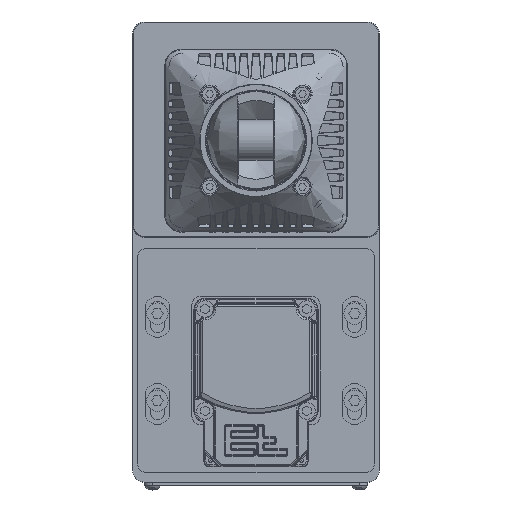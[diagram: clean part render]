
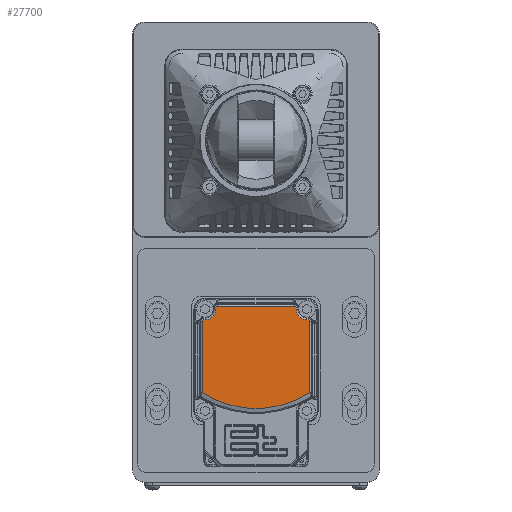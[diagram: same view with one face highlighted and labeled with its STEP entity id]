
A CAD part, top view. The second image highlights one B-rep face of the part: STEP entity #27700.
In plain terms, the highlighted planar face has unit normal (0, 0, 1).
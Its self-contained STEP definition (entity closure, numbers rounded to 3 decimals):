
#201 = VECTOR ( 'NONE', #52223, 1000. ) ;
#2622 = DIRECTION ( 'NONE',  ( -1., 0., 0. ) ) ;
#2992 = CARTESIAN_POINT ( 'NONE',  ( 301.579, 86.368, 448.429 ) ) ;
#5480 = EDGE_CURVE ( 'NONE', #206455, #174592, #165783, .T. ) ;
#8891 = CIRCLE ( 'NONE', #85681, 6.483 ) ;
#14646 = VECTOR ( 'NONE', #136075, 1000. ) ;
#15056 = LINE ( 'NONE', #218779, #201 ) ;
#16021 = CARTESIAN_POINT ( 'NONE',  ( 278.079, 87.786, 448.429 ) ) ;
#19732 = CARTESIAN_POINT ( 'NONE',  ( 325.097, 87.786, 448.429 ) ) ;
#20915 = CARTESIAN_POINT ( 'NONE',  ( 325.682, 87.786, 448.429 ) ) ;
#21641 = CARTESIAN_POINT ( 'NONE',  ( 334.296, 78.569, 448.429 ) ) ;
#22073 = LINE ( 'NONE', #96471, #14646 ) ;
#22967 = EDGE_CURVE ( 'NONE', #236410, #104081, #211931, .T. ) ;
#27348 = ORIENTED_EDGE ( 'NONE', *, *, #182219, .T. ) ;
#27700 = ADVANCED_FACE ( 'NONE', ( #94369 ), #227254, .T. ) ;
#29178 =( BOUNDED_CURVE ( )  B_SPLINE_CURVE ( 3, ( #143730, #72879, #234736, #92020 ),
 .UNSPECIFIED., .F., .T. ) 
 B_SPLINE_CURVE_WITH_KNOTS ( ( 4, 4 ),
 ( 2.356, 3.927 ),
 .UNSPECIFIED. ) 
 CURVE ( )  GEOMETRIC_REPRESENTATION_ITEM ( )  RATIONAL_B_SPLINE_CURVE ( ( 1., 0.805, 0.805, 1. ) ) 
 REPRESENTATION_ITEM ( '' )  );
#29205 = CARTESIAN_POINT ( 'NONE',  ( 326.096, 86.786, 448.429 ) ) ;
#31947 = EDGE_CURVE ( 'NONE', #181340, #138709, #145180, .T. ) ;
#33485 = EDGE_CURVE ( 'NONE', #56088, #179089, #22073, .T. ) ;
#33517 = VECTOR ( 'NONE', #196643, 1000. ) ;
#33576 = CARTESIAN_POINT ( 'NONE',  ( 268.862, 35.763, 448.429 ) ) ;
#34656 = CARTESIAN_POINT ( 'NONE',  ( 278.062, 87.786, 448.429 ) ) ;
#37825 = CARTESIAN_POINT ( 'NONE',  ( 268.862, 78.586, 448.429 ) ) ;
#38574 = LINE ( 'NONE', #55439, #87482 ) ;
#38927 = DIRECTION ( 'NONE',  ( 0., 1., 0. ) ) ;
#38971 = DIRECTION ( 'NONE',  ( 0., 1., 0. ) ) ;
#44007 = CARTESIAN_POINT ( 'NONE',  ( 333.882, 79.586, 448.429 ) ) ;
#46684 = CARTESIAN_POINT ( 'NONE',  ( 332.579, 79.586, 448.429 ) ) ;
#49746 = CARTESIAN_POINT ( 'NONE',  ( 264.079, 92.568, 448.429 ) ) ;
#51833 = EDGE_CURVE ( 'NONE', #174592, #111014, #38574, .T. ) ;
#52223 = DIRECTION ( 'NONE',  ( 0., -1., 0. ) ) ;
#52776 = CIRCLE ( 'NONE', #156309, 6.483 ) ;
#55439 = CARTESIAN_POINT ( 'NONE',  ( 332.579, 79.586, 448.429 ) ) ;
#55778 = CARTESIAN_POINT ( 'NONE',  ( 326.096, 87.372, 448.429 ) ) ;
#56088 = VERTEX_POINT ( 'NONE', #100653 ) ;
#59624 = ORIENTED_EDGE ( 'NONE', *, *, #51833, .T. ) ;
#62091 = CARTESIAN_POINT ( 'NONE',  ( 334.296, 78.586, 448.429 ) ) ;
#67015 = ORIENTED_EDGE ( 'NONE', *, *, #210472, .T. ) ;
#67749 = LINE ( 'NONE', #16021, #132078 ) ;
#68524 = ORIENTED_EDGE ( 'NONE', *, *, #158401, .T. ) ;
#71259 =( BOUNDED_CURVE ( )  B_SPLINE_CURVE ( 3, ( #220101, #205614, #77461, #37825 ),
 .UNSPECIFIED., .F., .T. ) 
 B_SPLINE_CURVE_WITH_KNOTS ( ( 4, 4 ),
 ( 2.356, 3.927 ),
 .UNSPECIFIED. ) 
 CURVE ( )  GEOMETRIC_REPRESENTATION_ITEM ( )  RATIONAL_B_SPLINE_CURVE ( ( 1., 0.805, 0.805, 1. ) ) 
 REPRESENTATION_ITEM ( '' )  );
#71805 = EDGE_LOOP ( 'NONE', ( #178328, #131484, #67015, #203861, #145864, #59624, #151395, #199741, #188170, #227507, #68524, #27348, #182491, #140341 ) ) ;
#72879 = CARTESIAN_POINT ( 'NONE',  ( 277.476, 87.786, 448.429 ) ) ;
#74337 = CARTESIAN_POINT ( 'NONE',  ( 269.862, 79.586, 448.429 ) ) ;
#77461 = CARTESIAN_POINT ( 'NONE',  ( 268.862, 79.172, 448.429 ) ) ;
#83894 = AXIS2_PLACEMENT_3D ( 'NONE', #2992, #186432, #38971 ) ;
#84608 = DIRECTION ( 'NONE',  ( 0., 0., 1. ) ) ;
#85681 = AXIS2_PLACEMENT_3D ( 'NONE', #126658, #181679, #38927 ) ;
#87482 = VECTOR ( 'NONE', #2622, 1000. ) ;
#88564 = VERTEX_POINT ( 'NONE', #194153 ) ;
#91537 = CIRCLE ( 'NONE', #83894, 60.8 ) ;
#92020 = CARTESIAN_POINT ( 'NONE',  ( 277.062, 86.786, 448.429 ) ) ;
#94369 = FACE_OUTER_BOUND ( 'NONE', #71805, .T. ) ;
#95000 = VECTOR ( 'NONE', #122318, 1000. ) ;
#96060 = CARTESIAN_POINT ( 'NONE',  ( 277.062, 86.068, 448.429 ) ) ;
#96471 = CARTESIAN_POINT ( 'NONE',  ( 269.879, 79.586, 448.429 ) ) ;
#100653 = CARTESIAN_POINT ( 'NONE',  ( 270.579, 79.586, 448.429 ) ) ;
#102481 = CARTESIAN_POINT ( 'NONE',  ( 325.097, 87.786, 448.429 ) ) ;
#102995 = EDGE_CURVE ( 'NONE', #135148, #236410, #177351, .T. ) ;
#103136 = CARTESIAN_POINT ( 'NONE',  ( 326.096, 86.769, 448.429 ) ) ;
#104081 = VERTEX_POINT ( 'NONE', #102481 ) ;
#111014 = VERTEX_POINT ( 'NONE', #46684 ) ;
#117264 = CARTESIAN_POINT ( 'NONE',  ( 333.297, 79.586, 448.429 ) ) ;
#118345 = CARTESIAN_POINT ( 'NONE',  ( 277.062, 86.786, 448.429 ) ) ;
#122318 = DIRECTION ( 'NONE',  ( 0., 1., 0. ) ) ;
#124054 = EDGE_CURVE ( 'NONE', #128284, #56088, #52776, .T. ) ;
#126658 = CARTESIAN_POINT ( 'NONE',  ( 332.579, 86.068, 448.429 ) ) ;
#127254 = DIRECTION ( 'NONE',  ( 0., 0., -1. ) ) ;
#128284 = VERTEX_POINT ( 'NONE', #96060 ) ;
#128519 = EDGE_CURVE ( 'NONE', #111014, #135148, #8891, .T. ) ;
#131484 = ORIENTED_EDGE ( 'NONE', *, *, #31947, .T. ) ;
#132078 = VECTOR ( 'NONE', #230711, 1000. ) ;
#132109 = LINE ( 'NONE', #21641, #199640 ) ;
#134571 = VERTEX_POINT ( 'NONE', #34656 ) ;
#134927 = CARTESIAN_POINT ( 'NONE',  ( 326.096, 86.068, 448.429 ) ) ;
#135148 = VERTEX_POINT ( 'NONE', #134927 ) ;
#135222 = CARTESIAN_POINT ( 'NONE',  ( 334.296, 79.172, 448.429 ) ) ;
#136075 = DIRECTION ( 'NONE',  ( -1., 0., 0. ) ) ;
#138671 = DIRECTION ( 'NONE',  ( 0., 1., 0. ) ) ;
#138709 = VERTEX_POINT ( 'NONE', #162688 ) ;
#140341 = ORIENTED_EDGE ( 'NONE', *, *, #33485, .T. ) ;
#142088 = CARTESIAN_POINT ( 'NONE',  ( 268.862, 78.586, 448.429 ) ) ;
#143730 = CARTESIAN_POINT ( 'NONE',  ( 278.062, 87.786, 448.429 ) ) ;
#145180 = LINE ( 'NONE', #33576, #33517 ) ;
#145864 = ORIENTED_EDGE ( 'NONE', *, *, #5480, .T. ) ;
#149465 = AXIS2_PLACEMENT_3D ( 'NONE', #49746, #84608, #138671 ) ;
#151395 = ORIENTED_EDGE ( 'NONE', *, *, #128519, .T. ) ;
#156309 = AXIS2_PLACEMENT_3D ( 'NONE', #199086, #127254, #203776 ) ;
#158401 = EDGE_CURVE ( 'NONE', #134571, #163702, #29178, .T. ) ;
#162688 = CARTESIAN_POINT ( 'NONE',  ( 268.862, 35.122, 448.429 ) ) ;
#163702 = VERTEX_POINT ( 'NONE', #118345 ) ;
#165783 =( BOUNDED_CURVE ( )  B_SPLINE_CURVE ( 3, ( #62091, #135222, #44007, #117264 ),
 .UNSPECIFIED., .F., .T. ) 
 B_SPLINE_CURVE_WITH_KNOTS ( ( 4, 4 ),
 ( 2.356, 3.927 ),
 .UNSPECIFIED. ) 
 CURVE ( )  GEOMETRIC_REPRESENTATION_ITEM ( )  RATIONAL_B_SPLINE_CURVE ( ( 1., 0.805, 0.805, 1. ) ) 
 REPRESENTATION_ITEM ( '' )  );
#174592 = VERTEX_POINT ( 'NONE', #191216 ) ;
#177351 = LINE ( 'NONE', #103136, #95000 ) ;
#178328 = ORIENTED_EDGE ( 'NONE', *, *, #226716, .T. ) ;
#179089 = VERTEX_POINT ( 'NONE', #74337 ) ;
#181340 = VERTEX_POINT ( 'NONE', #142088 ) ;
#181679 = DIRECTION ( 'NONE',  ( 0., 0., -1. ) ) ;
#182219 = EDGE_CURVE ( 'NONE', #163702, #128284, #15056, .T. ) ;
#182491 = ORIENTED_EDGE ( 'NONE', *, *, #124054, .T. ) ;
#183966 = CARTESIAN_POINT ( 'NONE',  ( 326.096, 86.786, 448.429 ) ) ;
#186432 = DIRECTION ( 'NONE',  ( 0., 0., 1. ) ) ;
#188170 = ORIENTED_EDGE ( 'NONE', *, *, #22967, .T. ) ;
#191216 = CARTESIAN_POINT ( 'NONE',  ( 333.297, 79.586, 448.429 ) ) ;
#194153 = CARTESIAN_POINT ( 'NONE',  ( 334.296, 35.122, 448.429 ) ) ;
#196643 = DIRECTION ( 'NONE',  ( 0., -1., 0. ) ) ;
#199086 = CARTESIAN_POINT ( 'NONE',  ( 270.579, 86.068, 448.429 ) ) ;
#199640 = VECTOR ( 'NONE', #205068, 1000. ) ;
#199741 = ORIENTED_EDGE ( 'NONE', *, *, #102995, .T. ) ;
#200675 = EDGE_CURVE ( 'NONE', #88564, #206455, #132109, .T. ) ;
#203776 = DIRECTION ( 'NONE',  ( 0., 1., 0. ) ) ;
#203861 = ORIENTED_EDGE ( 'NONE', *, *, #200675, .T. ) ;
#205068 = DIRECTION ( 'NONE',  ( 0., 1., 0. ) ) ;
#205614 = CARTESIAN_POINT ( 'NONE',  ( 269.276, 79.586, 448.429 ) ) ;
#206455 = VERTEX_POINT ( 'NONE', #232013 ) ;
#210472 = EDGE_CURVE ( 'NONE', #138709, #88564, #91537, .T. ) ;
#211931 =( BOUNDED_CURVE ( )  B_SPLINE_CURVE ( 3, ( #183966, #55778, #20915, #19732 ),
 .UNSPECIFIED., .F., .F. ) 
 B_SPLINE_CURVE_WITH_KNOTS ( ( 4, 4 ),
 ( 2.356, 3.927 ),
 .UNSPECIFIED. ) 
 CURVE ( )  GEOMETRIC_REPRESENTATION_ITEM ( )  RATIONAL_B_SPLINE_CURVE ( ( 1., 0.805, 0.805, 1. ) ) 
 REPRESENTATION_ITEM ( '' )  );
#218779 = CARTESIAN_POINT ( 'NONE',  ( 277.062, 86.068, 448.429 ) ) ;
#220101 = CARTESIAN_POINT ( 'NONE',  ( 269.862, 79.586, 448.429 ) ) ;
#225861 = EDGE_CURVE ( 'NONE', #104081, #134571, #67749, .T. ) ;
#226716 = EDGE_CURVE ( 'NONE', #179089, #181340, #71259, .T. ) ;
#227254 = PLANE ( 'NONE',  #149465 ) ;
#227507 = ORIENTED_EDGE ( 'NONE', *, *, #225861, .T. ) ;
#230711 = DIRECTION ( 'NONE',  ( -1., 0., 0. ) ) ;
#232013 = CARTESIAN_POINT ( 'NONE',  ( 334.296, 78.586, 448.429 ) ) ;
#234736 = CARTESIAN_POINT ( 'NONE',  ( 277.062, 87.372, 448.429 ) ) ;
#236410 = VERTEX_POINT ( 'NONE', #29205 ) ;
